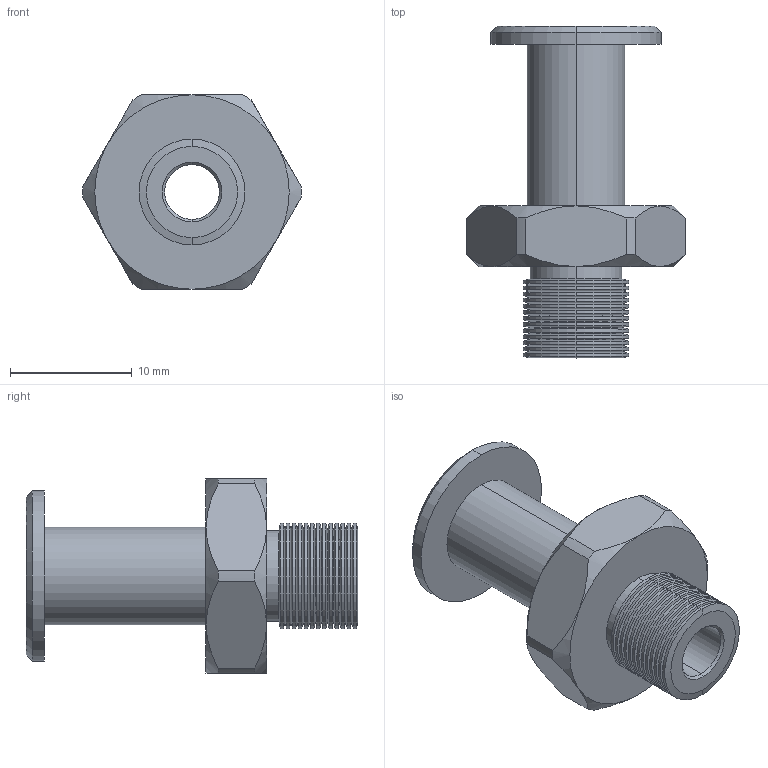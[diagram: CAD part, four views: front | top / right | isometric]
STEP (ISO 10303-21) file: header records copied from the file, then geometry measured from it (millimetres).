
FILE_DESCRIPTION (( 'STEP AP214' ), '1' );
FILE_NAME ('VM24-G18.STEP', '2023-03-07T00:43:43', ( 'Windows User' ), ( 'P R C' ), 'SwSTEP 2.0', 'SolidWorks 2019', '' );
FILE_SCHEMA (( 'AUTOMOTIVE_DESIGN' ));
Length unit declared in the file: millimetre
Products named in the file (1): VM24-G18
Bounding box: 18 x 27.3 x 16 mm (x, y, z)
Volume: 1955.9 mm3; surface area: 2151.1 mm2
Topology: 1 solids, 1 shells, 121 faces, 252 edges, 136 vertices
Faces by surface type: cone 70, cylinder 40, plane 11
Entity records: 3300 total; most frequent: CARTESIAN_POINT 678, DIRECTION 596, ORIENTED_EDGE 504, EDGE_CURVE 252, AXIS2_PLACEMENT_3D 246, VERTEX_POINT 136, EDGE_LOOP 126, CIRCLE 124
